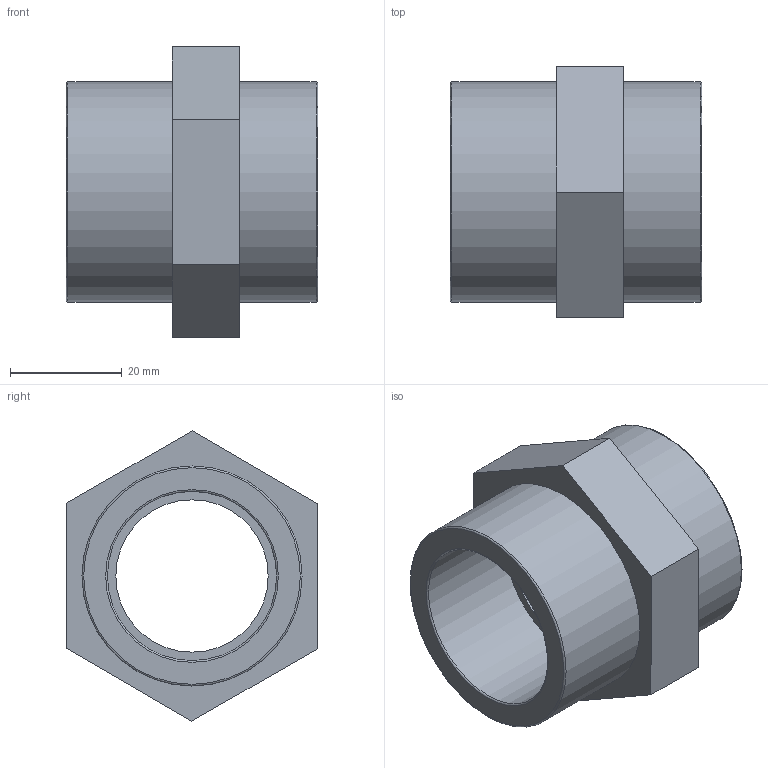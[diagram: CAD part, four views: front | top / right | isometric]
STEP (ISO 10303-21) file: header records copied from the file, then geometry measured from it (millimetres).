
FILE_DESCRIPTION(/* description */ ('PLASSON THREADED SOCKET PVC 1"'),/* implementation_level */ '2;1');
FILE_NAME(/* name */ 'C:\Dropbox\KIMPROJECTS-Inventor\99-16-3568-Processing\PVC Catalog 2017\050101\050101010.ipt.stp',/* time_stamp */ '2017-12-07T15:51:40+02:00',/* author */ ('KIM'),/* organization */ (''),/* preprocessor_version */ 'ST-DEVELOPER v15.6',/* originating_system */ 'Autodesk Inventor 2015',/* authorisation */ '');
FILE_SCHEMA (('AUTOMOTIVE_DESIGN { 1 0 10303 214 3 1 1 }'));
Length unit declared in the file: millimetre
Products named in the file (1): 050101010
Bounding box: 45 x 45.07 x 51.96 mm (x, y, z)
Volume: 29481.7 mm3; surface area: 12470.8 mm2
Topology: 1 solids, 1 shells, 21 faces, 41 edges, 26 vertices
Faces by surface type: plane 12, cylinder 5, torus 4
Full cylindrical faces by diameter (mm): 27.262 x1, 30.291 x2, 39.378 x2
Entity records: 520 total; most frequent: DIRECTION 90, CARTESIAN_POINT 80, ORIENTED_EDGE 64, EDGE_LOOP 36, AXIS2_PLACEMENT_3D 36, EDGE_CURVE 32, VERTEX_POINT 26, FACE_OUTER_BOUND 21
